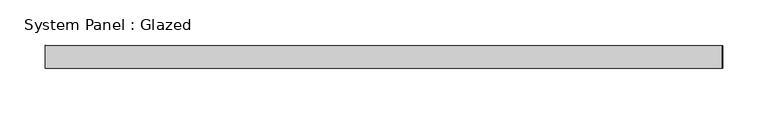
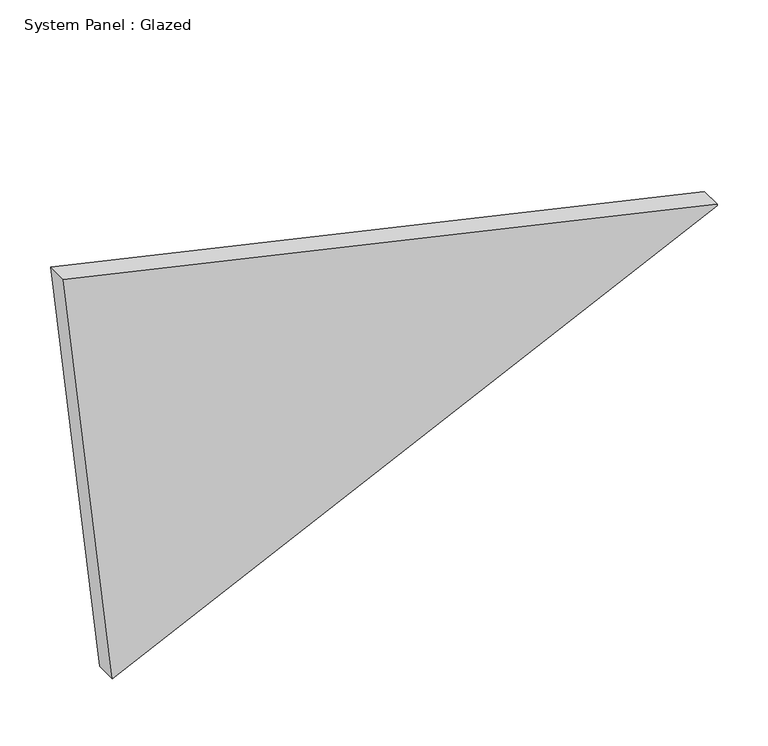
"""IFC4 building model written with IfcOpenShell, lengths in millimetres: plate geometry, System Panel : Glazed."""

from ifc_helpers import new_model, si_unit, frame, origin, place, context, project, spatial, polyline, outline, extrude, source, transform, mapped, element, save


def system_panel_glazed_4bd09b30(model_context):
    return source(origin(), model_context, "Body", "SweptSolid", [
        extrude(outline(polyline([(0.0, -316.1965354), (329.140808, 371.9865473), (330.8067939, 371.8007484), (500.2473012, -371.9865473), (0.0, -316.1965354)])), frame((0.0, -49.5, 0.0), z_axis=(0.0, 1.0, 0.0), x_axis=(0.0, 0.0, 1.0)), (0.0, 0.0, 1.0), 25.0),
    ])


if __name__ == "__main__":
    model = new_model("IFC4")
    model_context = context("Model", 3, world=origin())
    ifc_project = project(units=[si_unit("LENGTHUNIT", "METRE", prefix="MILLI")], contexts=[model_context])
    site = spatial("IfcSite", under=ifc_project)
    building = spatial("IfcBuilding", under=site)
    placement = place(None, origin())
    system_panel_glazed_shape = system_panel_glazed_4bd09b30(model_context)
    element("IfcPlate", 1, ObjectType="System Panel : Glazed", at=placement, inside=building, context=model_context, shape_type="MappedRepresentation", body=[
        mapped(system_panel_glazed_shape, transform((0.0, 0.0, 0.0), x_axis=(1.0, 0.0, 0.0), y_axis=(0.0, 1.0, 0.0), z_axis=(0.0, 0.0, 1.0))),
    ])
    save(model, "model.ifc")
